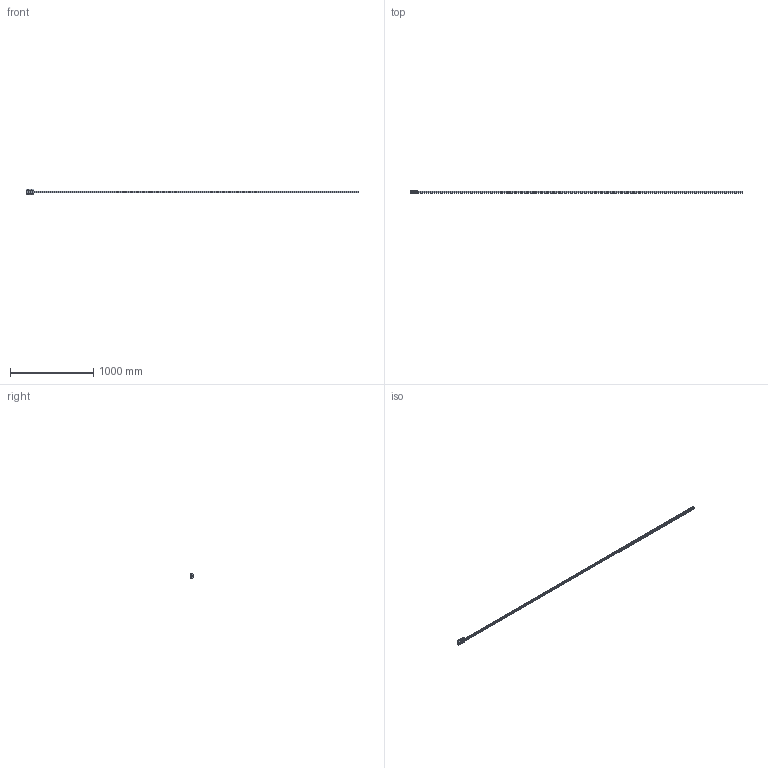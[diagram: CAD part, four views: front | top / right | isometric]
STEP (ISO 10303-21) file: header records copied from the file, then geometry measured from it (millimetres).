
FILE_DESCRIPTION( ( 'STEP AP203' ), '1' );
FILE_NAME( 'p:/temp/worker_8/temp/exporttempdir_140_746_1LR4V/format_0/FDI20 84441NV_4000-0.stp', '2021-02-04T01:57:23', ( 'License CC BY-ND 4.0' ), ( 'CADENAS' ), ' ', 'PARTsolutions', ' ' );
FILE_SCHEMA( ( 'CONFIG_CONTROL_DESIGN' ) );
Length unit declared in the file: millimetre
Products named in the file (3): FDI20 84441NV_4000-0; _FDI K_20K-4000-0; _FDI_20K Slider
Assembly tree (2 placements, depth 2):
  FDI20 84441NV_4000-0
    _FDI K_20K-4000-0
    _FDI_20K Slider
Bounding box: 4000 x 30 x 63 mm (x, y, z)
Volume: 1533469.1 mm3; surface area: 492859.2 mm2
Topology: 2 solids, 2 shells, 555 faces, 1448 edges, 987 vertices
Faces by surface type: cylinder 292, plane 252, torus 8, cone 3
Full cylindrical faces by diameter (mm): 4.917 x4, 5.5 x67, 6.6 x4, 8.5 x8, 10 x75
Entity records: 16257 total; most frequent: DIRECTION 2915, CARTESIAN_POINT 2714, ORIENTED_EDGE 2410, EDGE_CURVE 1205, AXIS2_PLACEMENT_3D 1161, EDGE_LOOP 963, VERTEX_POINT 910, FACE_OUTER_BOUND 721
